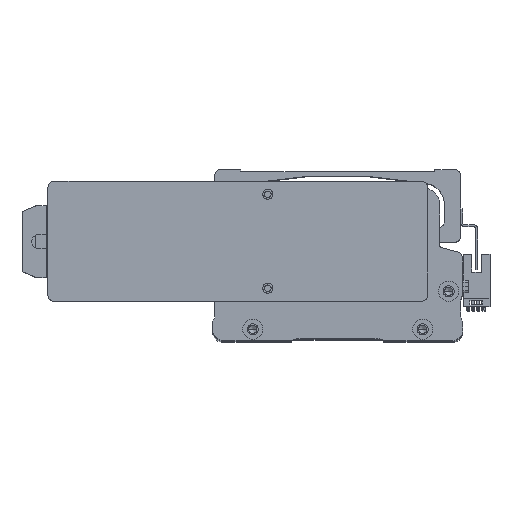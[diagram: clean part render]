
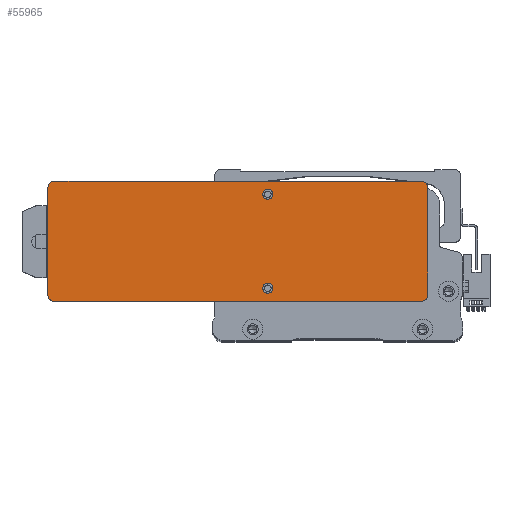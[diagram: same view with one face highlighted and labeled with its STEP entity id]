
A CAD part, top view. The second image highlights one B-rep face of the part: STEP entity #55965.
In plain terms, the highlighted planar face has unit normal (0, 0, 1) as drawn and (0, 0, -1) by its records, which use the part's own axes.
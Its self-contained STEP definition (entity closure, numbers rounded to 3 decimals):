
#2221 = AXIS2_PLACEMENT_3D ( 'NONE', #9491, #56305, #16210 ) ;
#4622 = FACE_BOUND ( 'NONE', #36140, .T. ) ;
#5556 = CARTESIAN_POINT ( 'NONE',  ( -15., -23.5, 0. ) ) ;
#5616 = DIRECTION ( 'NONE',  ( 1., 0., 0. ) ) ;
#6927 = CARTESIAN_POINT ( 'NONE',  ( 0., 0., 0. ) ) ;
#7181 = VERTEX_POINT ( 'NONE', #9610 ) ;
#7226 = DIRECTION ( 'NONE',  ( 1., 0., 0. ) ) ;
#9491 = CARTESIAN_POINT ( 'NONE',  ( 92., -27., 0. ) ) ;
#9610 = CARTESIAN_POINT ( 'NONE',  ( -92., -30., 0. ) ) ;
#9902 = CARTESIAN_POINT ( 'NONE',  ( -15., 23.5, 0. ) ) ;
#11586 = DIRECTION ( 'NONE',  ( 0., 0., -1. ) ) ;
#11610 = CARTESIAN_POINT ( 'NONE',  ( -12.5, 23.5, 0. ) ) ;
#12031 = CARTESIAN_POINT ( 'NONE',  ( 92., -30., 0. ) ) ;
#12277 = DIRECTION ( 'NONE',  ( -1., 0., 0. ) ) ;
#12724 = CARTESIAN_POINT ( 'NONE',  ( 95., -30., 0. ) ) ;
#14051 = CIRCLE ( 'NONE', #65518, 3. ) ;
#14236 = CARTESIAN_POINT ( 'NONE',  ( -95., 27., 0. ) ) ;
#14659 = EDGE_CURVE ( 'NONE', #21333, #85008, #16326, .T. ) ;
#15256 = DIRECTION ( 'NONE',  ( -1., 0., 0. ) ) ;
#16210 = DIRECTION ( 'NONE',  ( 1., 0., 0. ) ) ;
#16326 = CIRCLE ( 'NONE', #83272, 3. ) ;
#16657 = DIRECTION ( 'NONE',  ( -1., 0., 0. ) ) ;
#19492 = DIRECTION ( 'NONE',  ( 0., 1., 0. ) ) ;
#20440 = VECTOR ( 'NONE', #19492, 1000. ) ;
#21333 = VERTEX_POINT ( 'NONE', #59435 ) ;
#21996 = LINE ( 'NONE', #70381, #73334 ) ;
#22425 = AXIS2_PLACEMENT_3D ( 'NONE', #6927, #47307, #7226 ) ;
#23444 = VERTEX_POINT ( 'NONE', #11610 ) ;
#23520 = CARTESIAN_POINT ( 'NONE',  ( -92., -27., 0. ) ) ;
#25136 = VERTEX_POINT ( 'NONE', #12031 ) ;
#27074 = DIRECTION ( 'NONE',  ( 0., 0., -1. ) ) ;
#28698 = CIRCLE ( 'NONE', #42356, 2.5 ) ;
#28935 = ORIENTED_EDGE ( 'NONE', *, *, #48395, .T. ) ;
#29051 = CARTESIAN_POINT ( 'NONE',  ( 92., 27., 0. ) ) ;
#29307 = EDGE_CURVE ( 'NONE', #21333, #65123, #54328, .T. ) ;
#30242 = DIRECTION ( 'NONE',  ( 1., 0., 0. ) ) ;
#34231 = VERTEX_POINT ( 'NONE', #14236 ) ;
#34601 = ORIENTED_EDGE ( 'NONE', *, *, #60678, .T. ) ;
#35832 = DIRECTION ( 'NONE',  ( 1., 0., 0. ) ) ;
#36129 = CIRCLE ( 'NONE', #66130, 2.5 ) ;
#36140 = EDGE_LOOP ( 'NONE', ( #80327, #38965 ) ) ;
#38146 = FACE_BOUND ( 'NONE', #80190, .T. ) ;
#38221 = ORIENTED_EDGE ( 'NONE', *, *, #38845, .F. ) ;
#38845 = EDGE_CURVE ( 'NONE', #48792, #79571, #84759, .T. ) ;
#38965 = ORIENTED_EDGE ( 'NONE', *, *, #61816, .F. ) ;
#40343 = CARTESIAN_POINT ( 'NONE',  ( -17.5, -23.5, 0. ) ) ;
#40618 = PLANE ( 'NONE',  #22425 ) ;
#41367 = EDGE_CURVE ( 'NONE', #34231, #65123, #14051, .T. ) ;
#41895 = CARTESIAN_POINT ( 'NONE',  ( 95., 30., 0. ) ) ;
#42336 = ORIENTED_EDGE ( 'NONE', *, *, #84545, .F. ) ;
#42356 = AXIS2_PLACEMENT_3D ( 'NONE', #5556, #52382, #12277 ) ;
#42493 = EDGE_CURVE ( 'NONE', #34231, #79976, #50337, .T. ) ;
#43377 = CIRCLE ( 'NONE', #2221, 3. ) ;
#43760 = EDGE_LOOP ( 'NONE', ( #69544, #28935, #42336, #34601, #49373, #77403, #54685, #70751 ) ) ;
#45686 = DIRECTION ( 'NONE',  ( 0., 0., -1. ) ) ;
#45910 = CARTESIAN_POINT ( 'NONE',  ( -95., -27., 0. ) ) ;
#47307 = DIRECTION ( 'NONE',  ( 0., 0., 1. ) ) ;
#47454 = CARTESIAN_POINT ( 'NONE',  ( -12.5, -23.5, 0. ) ) ;
#47584 = CARTESIAN_POINT ( 'NONE',  ( -92., 30., 0. ) ) ;
#48241 = VECTOR ( 'NONE', #48297, 1000. ) ;
#48297 = DIRECTION ( 'NONE',  ( 0., -1., 0. ) ) ;
#48395 = EDGE_CURVE ( 'NONE', #63799, #25136, #43377, .T. ) ;
#48792 = VERTEX_POINT ( 'NONE', #47454 ) ;
#49373 = ORIENTED_EDGE ( 'NONE', *, *, #42493, .F. ) ;
#50337 = LINE ( 'NONE', #69347, #48241 ) ;
#51560 = EDGE_CURVE ( 'NONE', #79571, #48792, #28698, .T. ) ;
#51672 = CARTESIAN_POINT ( 'NONE',  ( -15., 23.5, 0. ) ) ;
#52211 = VECTOR ( 'NONE', #15256, 1000. ) ;
#52382 = DIRECTION ( 'NONE',  ( 0., 0., -1. ) ) ;
#54328 = LINE ( 'NONE', #41895, #52211 ) ;
#54471 = ORIENTED_EDGE ( 'NONE', *, *, #51560, .F. ) ;
#54685 = ORIENTED_EDGE ( 'NONE', *, *, #29307, .F. ) ;
#55687 = EDGE_CURVE ( 'NONE', #61325, #23444, #36129, .T. ) ;
#55965 = ADVANCED_FACE ( 'NONE', ( #4622, #60117, #38146 ), #40618, .F. ) ;
#56305 = DIRECTION ( 'NONE',  ( 0., 0., -1. ) ) ;
#56739 = DIRECTION ( 'NONE',  ( 0., 0., -1. ) ) ;
#58405 = DIRECTION ( 'NONE',  ( -1., 0., 0. ) ) ;
#58656 = AXIS2_PLACEMENT_3D ( 'NONE', #67147, #27074, #73947 ) ;
#59435 = CARTESIAN_POINT ( 'NONE',  ( 92., 30., 0. ) ) ;
#60117 = FACE_OUTER_BOUND ( 'NONE', #43760, .T. ) ;
#60414 = EDGE_CURVE ( 'NONE', #63799, #85008, #73880, .T. ) ;
#60678 = EDGE_CURVE ( 'NONE', #7181, #79976, #85439, .T. ) ;
#61325 = VERTEX_POINT ( 'NONE', #78152 ) ;
#61816 = EDGE_CURVE ( 'NONE', #23444, #61325, #70440, .T. ) ;
#62823 = AXIS2_PLACEMENT_3D ( 'NONE', #51672, #11586, #58405 ) ;
#63799 = VERTEX_POINT ( 'NONE', #77580 ) ;
#63882 = DIRECTION ( 'NONE',  ( 1., 0., 0. ) ) ;
#65123 = VERTEX_POINT ( 'NONE', #47584 ) ;
#65482 = AXIS2_PLACEMENT_3D ( 'NONE', #23520, #70390, #30242 ) ;
#65518 = AXIS2_PLACEMENT_3D ( 'NONE', #85802, #45686, #5616 ) ;
#66130 = AXIS2_PLACEMENT_3D ( 'NONE', #9902, #56739, #16657 ) ;
#67147 = CARTESIAN_POINT ( 'NONE',  ( -15., -23.5, 0. ) ) ;
#69347 = CARTESIAN_POINT ( 'NONE',  ( -95., -30., 0. ) ) ;
#69544 = ORIENTED_EDGE ( 'NONE', *, *, #60414, .F. ) ;
#70381 = CARTESIAN_POINT ( 'NONE',  ( 95., -30., 0. ) ) ;
#70390 = DIRECTION ( 'NONE',  ( 0., 0., -1. ) ) ;
#70440 = CIRCLE ( 'NONE', #62823, 2.5 ) ;
#70751 = ORIENTED_EDGE ( 'NONE', *, *, #14659, .T. ) ;
#73334 = VECTOR ( 'NONE', #63882, 1000. ) ;
#73880 = LINE ( 'NONE', #12724, #20440 ) ;
#73947 = DIRECTION ( 'NONE',  ( -1., 0., 0. ) ) ;
#75901 = DIRECTION ( 'NONE',  ( 0., 0., -1. ) ) ;
#77403 = ORIENTED_EDGE ( 'NONE', *, *, #41367, .T. ) ;
#77580 = CARTESIAN_POINT ( 'NONE',  ( 95., -27., 0. ) ) ;
#78152 = CARTESIAN_POINT ( 'NONE',  ( -17.5, 23.5, 0. ) ) ;
#78331 = CARTESIAN_POINT ( 'NONE',  ( 95., 27., 0. ) ) ;
#79571 = VERTEX_POINT ( 'NONE', #40343 ) ;
#79976 = VERTEX_POINT ( 'NONE', #45910 ) ;
#80190 = EDGE_LOOP ( 'NONE', ( #54471, #38221 ) ) ;
#80327 = ORIENTED_EDGE ( 'NONE', *, *, #55687, .F. ) ;
#83272 = AXIS2_PLACEMENT_3D ( 'NONE', #29051, #75901, #35832 ) ;
#84545 = EDGE_CURVE ( 'NONE', #7181, #25136, #21996, .T. ) ;
#84759 = CIRCLE ( 'NONE', #58656, 2.5 ) ;
#85008 = VERTEX_POINT ( 'NONE', #78331 ) ;
#85439 = CIRCLE ( 'NONE', #65482, 3. ) ;
#85802 = CARTESIAN_POINT ( 'NONE',  ( -92., 27., 0. ) ) ;
